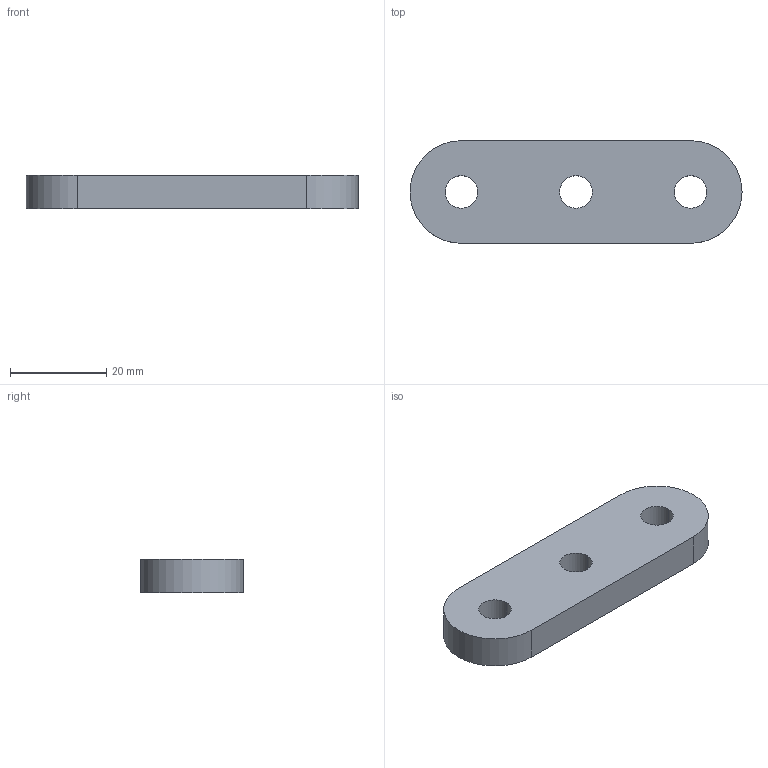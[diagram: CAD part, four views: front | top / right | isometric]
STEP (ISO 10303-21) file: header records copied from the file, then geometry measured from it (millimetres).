
FILE_DESCRIPTION (( 'STEP AP214' ), '1' );
FILE_NAME ('DRP-002-0538-00.STEP', '2013-12-20T17:38:58', ( 'ydmin' ), ( 'Microsoft' ), 'SwSTEP 2.0', 'SolidWorks 2013', '' );
FILE_SCHEMA (( 'AUTOMOTIVE_DESIGN' ));
Length unit declared in the file: inch
Products named in the file (1): DRP-002-0538-00
Bounding box: 68.96 x 21.34 x 6.86 mm (x, y, z)
Volume: 8682.9 mm3; surface area: 4081.8 mm2
Topology: 1 solids, 1 shells, 13 faces, 33 edges, 22 vertices
Faces by surface type: cylinder 9, plane 4
Entity records: 626 total; most frequent: DIRECTION 79, CARTESIAN_POINT 69, ORIENTED_EDGE 66, EDGE_CURVE 33, AXIS2_PLACEMENT_3D 32, VERTEX_POINT 22, EDGE_LOOP 19, CIRCLE 18
